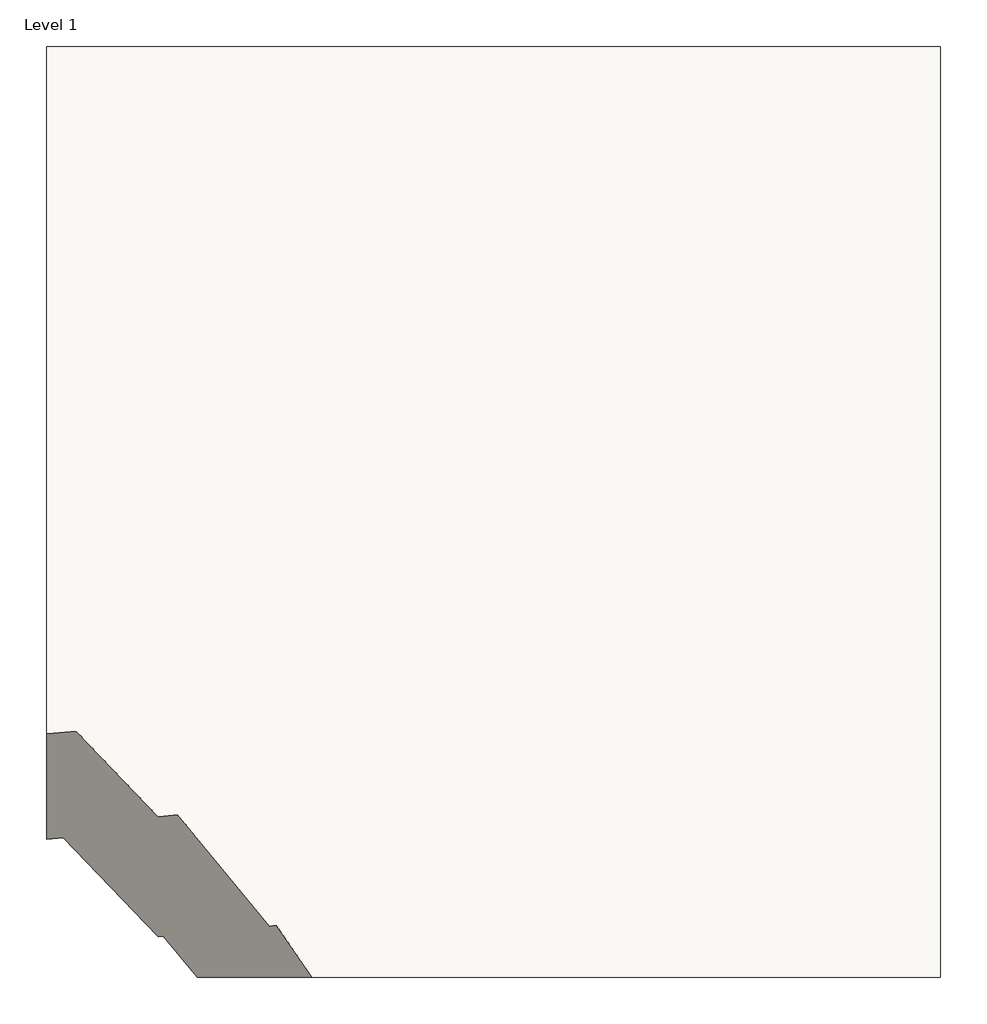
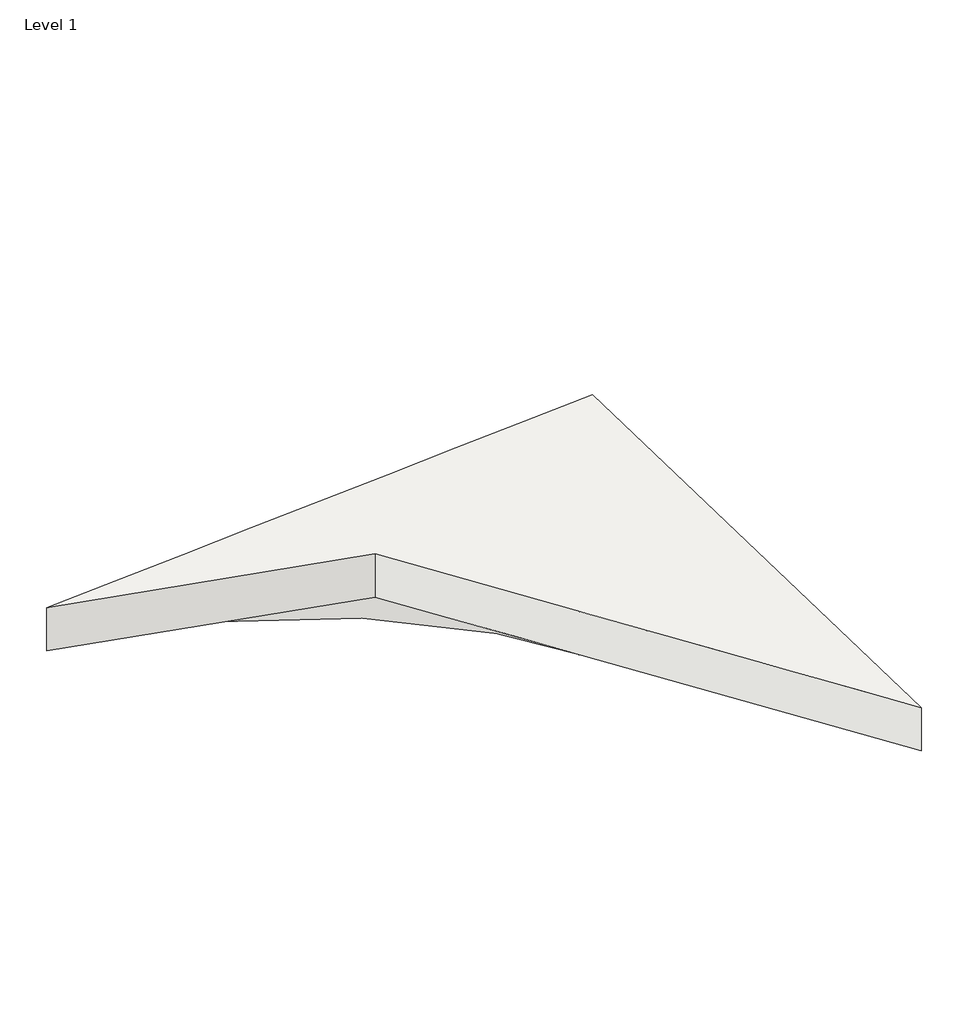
# One storey: 1 slab.
"""IFC4 building model written with IfcOpenShell, lengths in millimetres."""

from ifc_helpers import new_model, si_unit, frame, origin, place, context, project, spatial, element, save
from ifc_brep_helpers import plane_surface, spline_surface, advanced_brep

model = new_model("IFC4")

# Units and contexts
model_context = context("Model", 3, world=origin())
ifc_project = project(units=[si_unit("LENGTHUNIT", "METRE", prefix="MILLI")], contexts=[model_context])

# Site, building, storey
site = spatial("IfcSite", under=ifc_project)
building = spatial("IfcBuilding", under=site)
storey = spatial("IfcBuildingStorey", under=building, Name="Level 1", Elevation=0.0)

# Slab
placement = place(None, origin())
element("IfcSlab", 1, ObjectType="Generic - 12\"", at=placement, inside=storey, context=model_context, shape_type="AdvancedBrep", body=[
    advanced_brep(
    [(-9645.8273121, 7462.5065309, -863.6), (-9645.8273121, 7462.5065309, -558.8), (-9645.8273121, 3652.5065309, -463.1541166), (-9645.8273121, 3652.5065309, -767.9541166), (-13303.4273121, 3652.5065309, 1904.6007103), (-13303.4273121, 3652.5065309, 1599.8007103), (-13303.4273121, 7462.5065309, -787.4), (-13303.4273121, 7462.5065309, -1092.2)],
    [
        (0, 1),
        (1, 2),
        (2, 3),
        (3, 0),
        (2, 4),
        (4, 5),
        (5, 3),
        (4, 6),
        (6, 7),
        (7, 5),
        (6, 1),
        (0, 7),
    ],
    [
        plane_surface(frame((-9645.8273121, 7462.5065309, -304.8), z_axis=(1.0, 0.0, 0.0), x_axis=(0.0, 0.0, 1.0))),
        plane_surface(frame((-9645.8273121, 3652.5065309, -304.8), z_axis=(0.0, -1.0, 0.0), x_axis=(0.0, 0.0, 1.0))),
        plane_surface(frame((-13303.4273121, 3652.5065309, -304.8), z_axis=(-1.0, 0.0, 0.0), x_axis=(0.0, 0.0, 1.0))),
        plane_surface(frame((-13303.4273121, 7462.5065309, -304.8), z_axis=(0.0, 1.0, 0.0), x_axis=(0.0, 0.0, 1.0))),
        spline_surface(1, 1, [[(-13303.4273121, 3652.5065309, 1904.6007103), (-13303.4273121, 7462.5065309, -787.4)], [(-9645.8273121, 3652.5065309, -463.1541166), (-9645.8273121, 7462.5065309, -558.8)]], [2, 2], [2, 2], [0.0, 1.0], [0.0, 1.0]),
        spline_surface(1, 1, [[(-13303.4273121, 3652.5065309, 1599.8007103), (-9645.8273121, 3652.5065309, -767.9541166)], [(-13303.4273121, 7462.5065309, -1092.2), (-9645.8273121, 7462.5065309, -863.6)]], [2, 2], [2, 2], [0.0, 1.0], [0.0, 1.0]),
    ],
    [
        (0, [[1, 2, 3, 4]]),
        (1, [[-3, 5, 6, 7]]),
        (2, [[-6, 8, 9, 10]]),
        (3, [[-9, 11, -1, 12]]),
        (4, [[-8, -5, -2, -11]]),
        (5, [[-12, -4, -7, -10]]),
    ],
),
])

save(model, "model.ifc")
